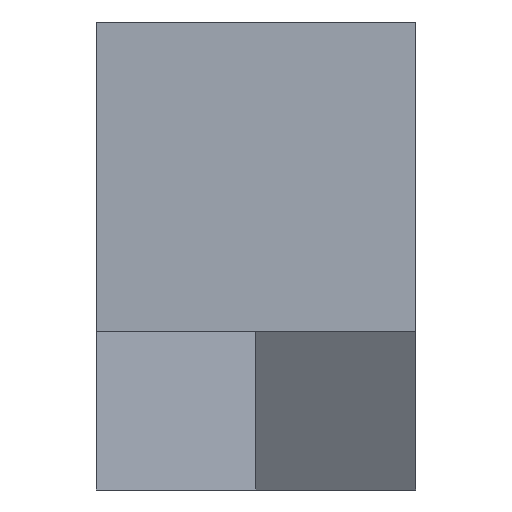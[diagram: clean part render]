
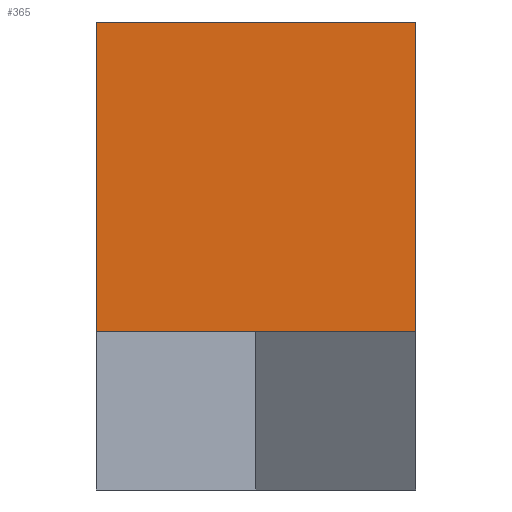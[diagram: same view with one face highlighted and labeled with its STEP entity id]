
A CAD part, front view. The second image highlights one B-rep face of the part: STEP entity #365.
In plain terms, the highlighted planar face has unit normal (0, -1, 0).
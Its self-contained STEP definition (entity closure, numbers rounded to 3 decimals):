
#21 = EDGE_CURVE('',#22,#24,#26,.T.);
#22 = VERTEX_POINT('',#23);
#23 = CARTESIAN_POINT('',(0.,0.,7.584));
#24 = VERTEX_POINT('',#25);
#25 = CARTESIAN_POINT('',(0.,0.,22.369));
#26 = SURFACE_CURVE('',#27,(#31,#43),.PCURVE_S1.);
#27 = LINE('',#28,#29);
#28 = CARTESIAN_POINT('',(0.,0.,0.));
#29 = VECTOR('',#30,1.);
#30 = DIRECTION('',(0.,0.,1.));
#31 = PCURVE('',#32,#37);
#32 = PLANE('',#33);
#33 = AXIS2_PLACEMENT_3D('',#34,#35,#36);
#34 = CARTESIAN_POINT('',(0.,0.,0.));
#35 = DIRECTION('',(1.,0.,-0.));
#36 = DIRECTION('',(0.,0.,1.));
#37 = DEFINITIONAL_REPRESENTATION('',(#38),#42);
#38 = LINE('',#39,#40);
#39 = CARTESIAN_POINT('',(0.,0.));
#40 = VECTOR('',#41,1.);
#41 = DIRECTION('',(1.,0.));
#42 = ( GEOMETRIC_REPRESENTATION_CONTEXT(2) 
PARAMETRIC_REPRESENTATION_CONTEXT() REPRESENTATION_CONTEXT('2D SPACE',''
  ) );
#43 = PCURVE('',#44,#49);
#44 = PLANE('',#45);
#45 = AXIS2_PLACEMENT_3D('',#46,#47,#48);
#46 = CARTESIAN_POINT('',(0.,0.,0.));
#47 = DIRECTION('',(-0.,1.,0.));
#48 = DIRECTION('',(0.,0.,1.));
#49 = DEFINITIONAL_REPRESENTATION('',(#50),#54);
#50 = LINE('',#51,#52);
#51 = CARTESIAN_POINT('',(0.,0.));
#52 = VECTOR('',#53,1.);
#53 = DIRECTION('',(1.,0.));
#54 = ( GEOMETRIC_REPRESENTATION_CONTEXT(2) 
PARAMETRIC_REPRESENTATION_CONTEXT() REPRESENTATION_CONTEXT('2D SPACE',''
  ) );
#72 = PLANE('',#73);
#73 = AXIS2_PLACEMENT_3D('',#74,#75,#76);
#74 = CARTESIAN_POINT('',(7.64,12.868,7.584)
  );
#75 = DIRECTION('',(-0.,-0.,-1.));
#76 = DIRECTION('',(-1.,0.,0.));
#182 = PLANE('',#183);
#183 = AXIS2_PLACEMENT_3D('',#184,#185,#186);
#184 = CARTESIAN_POINT('',(0.,0.,22.369));
#185 = DIRECTION('',(0.,0.,1.));
#186 = DIRECTION('',(1.,0.,-0.));
#365 = ADVANCED_FACE('f001',(#366),#44,.F.);
#366 = FACE_BOUND('',#367,.F.);
#367 = EDGE_LOOP('',(#368,#391,#392,#415));
#368 = ORIENTED_EDGE('',*,*,#369,.T.);
#369 = EDGE_CURVE('',#370,#22,#372,.T.);
#370 = VERTEX_POINT('',#371);
#371 = CARTESIAN_POINT('',(15.28,0.,7.584));
#372 = SURFACE_CURVE('',#373,(#377,#384),.PCURVE_S1.);
#373 = LINE('',#374,#375);
#374 = CARTESIAN_POINT('',(15.28,0.,7.584));
#375 = VECTOR('',#376,1.);
#376 = DIRECTION('',(-1.,0.,0.));
#377 = PCURVE('',#44,#378);
#378 = DEFINITIONAL_REPRESENTATION('',(#379),#383);
#379 = LINE('',#380,#381);
#380 = CARTESIAN_POINT('',(7.584,15.28));
#381 = VECTOR('',#382,1.);
#382 = DIRECTION('',(0.,-1.));
#383 = ( GEOMETRIC_REPRESENTATION_CONTEXT(2) 
PARAMETRIC_REPRESENTATION_CONTEXT() REPRESENTATION_CONTEXT('2D SPACE',''
  ) );
#384 = PCURVE('',#72,#385);
#385 = DEFINITIONAL_REPRESENTATION('',(#386),#390);
#386 = LINE('',#387,#388);
#387 = CARTESIAN_POINT('',(-7.64,-12.868));
#388 = VECTOR('',#389,1.);
#389 = DIRECTION('',(1.,0.));
#390 = ( GEOMETRIC_REPRESENTATION_CONTEXT(2) 
PARAMETRIC_REPRESENTATION_CONTEXT() REPRESENTATION_CONTEXT('2D SPACE',''
  ) );
#391 = ORIENTED_EDGE('',*,*,#21,.T.);
#392 = ORIENTED_EDGE('',*,*,#393,.T.);
#393 = EDGE_CURVE('',#24,#394,#396,.T.);
#394 = VERTEX_POINT('',#395);
#395 = CARTESIAN_POINT('',(15.28,0.,22.369));
#396 = SURFACE_CURVE('',#397,(#401,#408),.PCURVE_S1.);
#397 = LINE('',#398,#399);
#398 = CARTESIAN_POINT('',(0.,0.,22.369));
#399 = VECTOR('',#400,1.);
#400 = DIRECTION('',(1.,0.,-0.));
#401 = PCURVE('',#44,#402);
#402 = DEFINITIONAL_REPRESENTATION('',(#403),#407);
#403 = LINE('',#404,#405);
#404 = CARTESIAN_POINT('',(22.369,0.));
#405 = VECTOR('',#406,1.);
#406 = DIRECTION('',(0.,1.));
#407 = ( GEOMETRIC_REPRESENTATION_CONTEXT(2) 
PARAMETRIC_REPRESENTATION_CONTEXT() REPRESENTATION_CONTEXT('2D SPACE',''
  ) );
#408 = PCURVE('',#182,#409);
#409 = DEFINITIONAL_REPRESENTATION('',(#410),#414);
#410 = LINE('',#411,#412);
#411 = CARTESIAN_POINT('',(0.,0.));
#412 = VECTOR('',#413,1.);
#413 = DIRECTION('',(1.,0.));
#414 = ( GEOMETRIC_REPRESENTATION_CONTEXT(2) 
PARAMETRIC_REPRESENTATION_CONTEXT() REPRESENTATION_CONTEXT('2D SPACE',''
  ) );
#415 = ORIENTED_EDGE('',*,*,#416,.F.);
#416 = EDGE_CURVE('',#370,#394,#417,.T.);
#417 = SURFACE_CURVE('',#418,(#422,#429),.PCURVE_S1.);
#418 = LINE('',#419,#420);
#419 = CARTESIAN_POINT('',(15.28,0.,0.));
#420 = VECTOR('',#421,1.);
#421 = DIRECTION('',(0.,0.,1.));
#422 = PCURVE('',#44,#423);
#423 = DEFINITIONAL_REPRESENTATION('',(#424),#428);
#424 = LINE('',#425,#426);
#425 = CARTESIAN_POINT('',(0.,15.28));
#426 = VECTOR('',#427,1.);
#427 = DIRECTION('',(1.,0.));
#428 = ( GEOMETRIC_REPRESENTATION_CONTEXT(2) 
PARAMETRIC_REPRESENTATION_CONTEXT() REPRESENTATION_CONTEXT('2D SPACE',''
  ) );
#429 = PCURVE('',#430,#435);
#430 = PLANE('',#431);
#431 = AXIS2_PLACEMENT_3D('',#432,#433,#434);
#432 = CARTESIAN_POINT('',(15.28,0.,0.));
#433 = DIRECTION('',(1.,0.,-0.));
#434 = DIRECTION('',(0.,0.,1.));
#435 = DEFINITIONAL_REPRESENTATION('',(#436),#440);
#436 = LINE('',#437,#438);
#437 = CARTESIAN_POINT('',(0.,0.));
#438 = VECTOR('',#439,1.);
#439 = DIRECTION('',(1.,0.));
#440 = ( GEOMETRIC_REPRESENTATION_CONTEXT(2) 
PARAMETRIC_REPRESENTATION_CONTEXT() REPRESENTATION_CONTEXT('2D SPACE',''
  ) );
